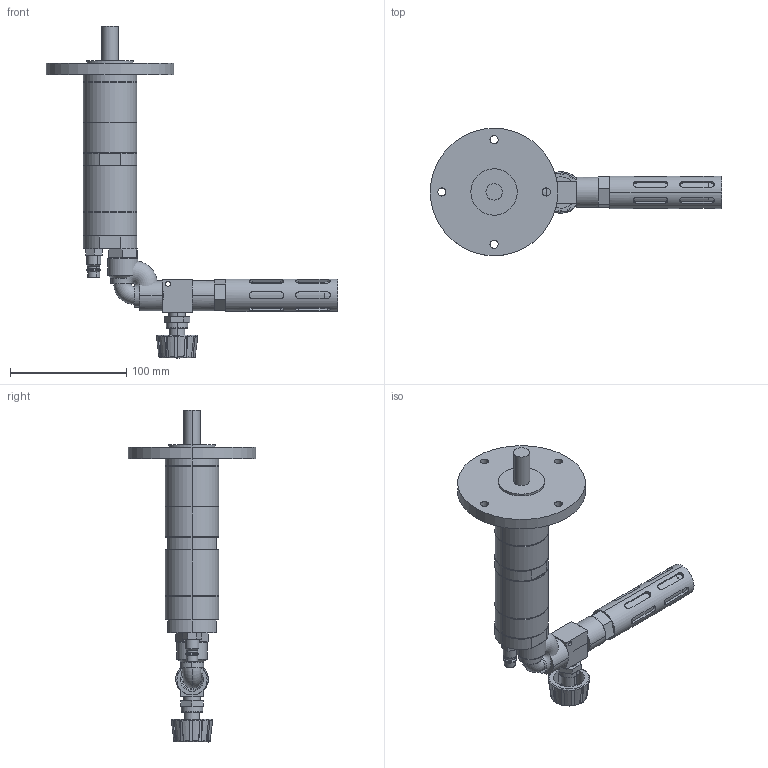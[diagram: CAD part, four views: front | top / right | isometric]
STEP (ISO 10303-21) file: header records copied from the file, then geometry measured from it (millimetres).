
FILE_DESCRIPTION (( 'STEP AP214' ), '1' );
FILE_NAME ('PM6465V.STEP', '2019-09-05T11:31:28', ( '' ), ( '' ), 'SwSTEP 2.0', 'SolidWorks 2018', '' );
FILE_SCHEMA (( 'AUTOMOTIVE_DESIGN' ));
Length unit declared in the file: millimetre
Products named in the file (10): Winkel V3; Stecknippel PLM; PM64V; PM6465V; Schalldämpfer Deckel V3; Vlies; Schalli; Stellrad V3; V3; Doppelnippel PM64
Assembly tree (9 placements, depth 2):
  PM6465V
    PM64V
    Stecknippel PLM
    Winkel V3
    Doppelnippel PM64
    V3
    Stellrad V3
    Schalli
    Vlies
    Schalldämpfer Deckel V3
Bounding box: 251.31 x 110 x 286.2 mm (x, y, z)
Volume: 458806 mm3; surface area: 107351.9 mm2
Topology: 9 solids, 9 shells, 408 faces, 984 edges, 626 vertices
Faces by surface type: plane 196, cylinder 156, cone 44, torus 12
Entity records: 14362 total; most frequent: CARTESIAN_POINT 4198, DIRECTION 1980, ORIENTED_EDGE 1960, EDGE_CURVE 980, AXIS2_PLACEMENT_3D 748, VERTEX_POINT 626, EDGE_LOOP 488, VECTOR 484
